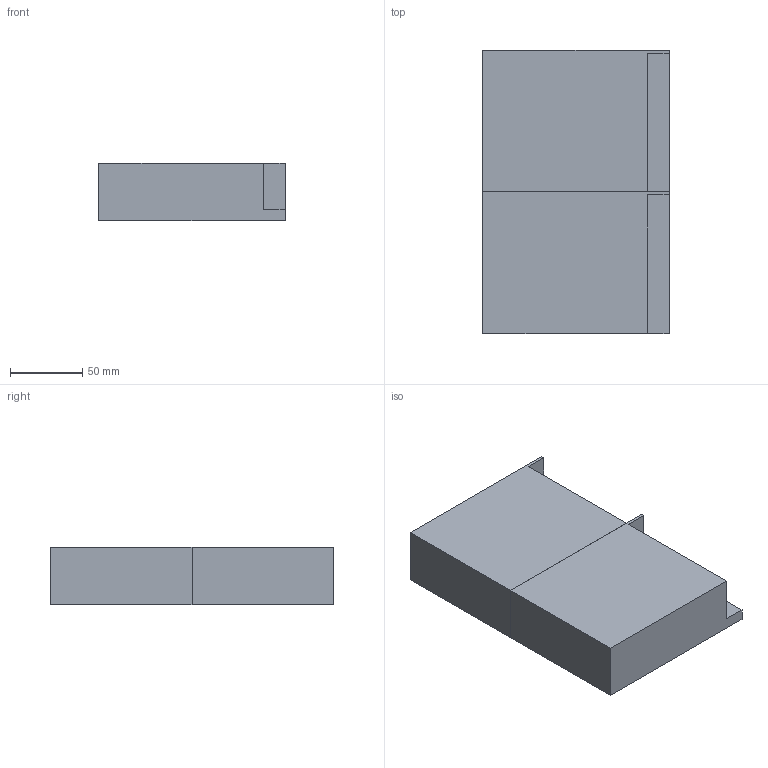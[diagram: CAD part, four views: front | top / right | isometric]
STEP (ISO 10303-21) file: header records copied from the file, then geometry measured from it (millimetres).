
FILE_DESCRIPTION(/* description */ (''),/* implementation_level */ '2;1');
FILE_NAME(/* name */ '9.electronics#9.2#la-psu',/* time_stamp */ '2014-12-01T20:18:46+01:00',/* author */ (''),/* organization */ (''),/* preprocessor_version */ 'ST-DEVELOPER v14',/* originating_system */ '',/* authorisation */ '');
FILE_SCHEMA (('AUTOMOTIVE_DESIGN'));
Length unit declared in the file: millimetre
Products named in the file (1): Document
Bounding box: 129 x 196 x 40 mm (x, y, z)
Volume: 919200 mm3; surface area: 86888 mm2
Topology: 2 solids, 2 shells, 18 faces, 42 edges, 28 vertices
Faces by surface type: plane 18
Entity records: 951 total; most frequent: CARTESIAN_POINT 308, B_SPLINE_CURVE_WITH_KNOTS 126, ORIENTED_EDGE 84, PCURVE 84, DEFINITIONAL_REPRESENTATION 84, SURFACE_CURVE 42, EDGE_CURVE 42, VERTEX_POINT 28
